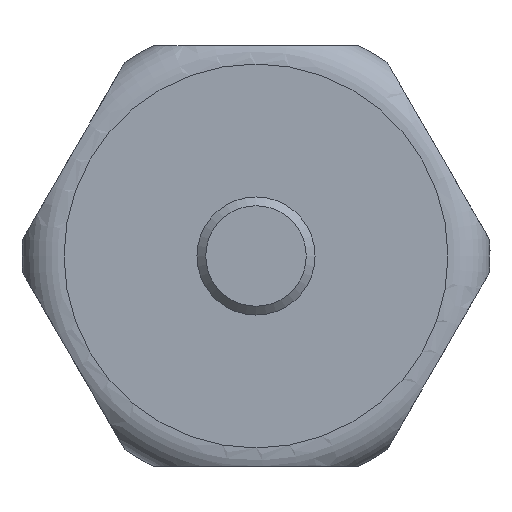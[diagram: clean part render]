
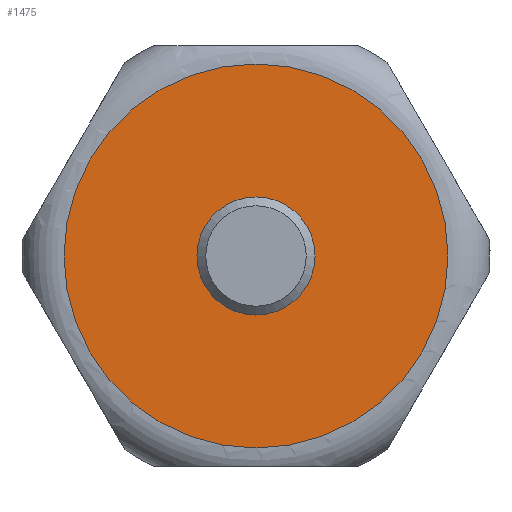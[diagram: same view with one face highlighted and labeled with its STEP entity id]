
A CAD part, left-side view. The second image highlights one B-rep face of the part: STEP entity #1475.
In plain terms, the highlighted planar face has unit normal (-1, 0, 0).
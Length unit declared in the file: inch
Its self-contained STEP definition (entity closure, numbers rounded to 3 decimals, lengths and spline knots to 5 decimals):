
#207=FACE_BOUND('',#340,.T.);
#254=FACE_OUTER_BOUND('',#339,.T.);
#339=EDGE_LOOP('',(#1073,#1074));
#340=EDGE_LOOP('',(#1075,#1076));
#428=CIRCLE('',#1589,0.14764);
#429=CIRCLE('',#1590,0.14764);
#455=CIRCLE('',#1634,0.51181);
#456=CIRCLE('',#1635,0.51181);
#560=VERTEX_POINT('',#2324);
#561=VERTEX_POINT('',#2325);
#600=VERTEX_POINT('',#2585);
#601=VERTEX_POINT('',#2586);
#723=EDGE_CURVE('',#560,#561,#428,.T.);
#724=EDGE_CURVE('',#561,#560,#429,.T.);
#780=EDGE_CURVE('',#600,#601,#455,.T.);
#781=EDGE_CURVE('',#601,#600,#456,.T.);
#1073=ORIENTED_EDGE('',*,*,#780,.F.);
#1074=ORIENTED_EDGE('',*,*,#781,.F.);
#1075=ORIENTED_EDGE('',*,*,#723,.T.);
#1076=ORIENTED_EDGE('',*,*,#724,.T.);
#1338=PLANE('',#1633);
#1475=ADVANCED_FACE('',(#254,#207),#1338,.T.);
#1589=AXIS2_PLACEMENT_3D('',#2326,#1855,#1856);
#1590=AXIS2_PLACEMENT_3D('',#2327,#1857,#1858);
#1633=AXIS2_PLACEMENT_3D('',#2584,#1959,#1960);
#1634=AXIS2_PLACEMENT_3D('',#2587,#1961,#1962);
#1635=AXIS2_PLACEMENT_3D('',#2588,#1963,#1964);
#1855=DIRECTION('center_axis',(1.,0.,0.));
#1856=DIRECTION('ref_axis',(0.,-0.866,0.5));
#1857=DIRECTION('center_axis',(1.,0.,0.));
#1858=DIRECTION('ref_axis',(0.,-0.866,0.5));
#1959=DIRECTION('center_axis',(-1.,0.,0.));
#1960=DIRECTION('ref_axis',(0.,-0.866,0.5));
#1961=DIRECTION('center_axis',(1.,0.,0.));
#1962=DIRECTION('ref_axis',(0.,0.866,-0.5));
#1963=DIRECTION('center_axis',(1.,0.,0.));
#1964=DIRECTION('ref_axis',(0.,0.866,-0.5));
#2324=CARTESIAN_POINT('',(-2.66747,-0.02656,-0.27052));
#2325=CARTESIAN_POINT('',(-2.66747,0.22916,-0.41816));
#2326=CARTESIAN_POINT('Origin',(-2.66747,0.1013,-0.34434));
#2327=CARTESIAN_POINT('Origin',(-2.66747,0.1013,-0.34434));
#2584=CARTESIAN_POINT('Origin',(-2.66747,0.54454,-0.60025));
#2585=CARTESIAN_POINT('',(-2.66747,0.54454,-0.60025));
#2586=CARTESIAN_POINT('',(-2.66747,-0.34194,-0.08844));
#2587=CARTESIAN_POINT('Origin',(-2.66747,0.1013,-0.34434));
#2588=CARTESIAN_POINT('Origin',(-2.66747,0.1013,-0.34434));
